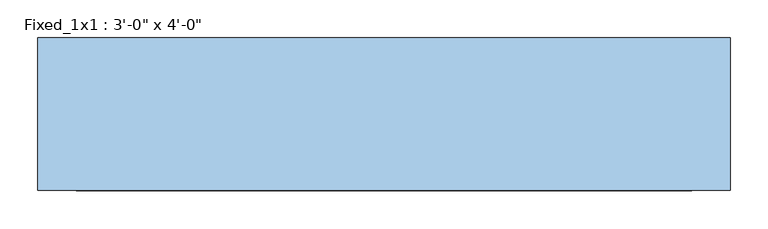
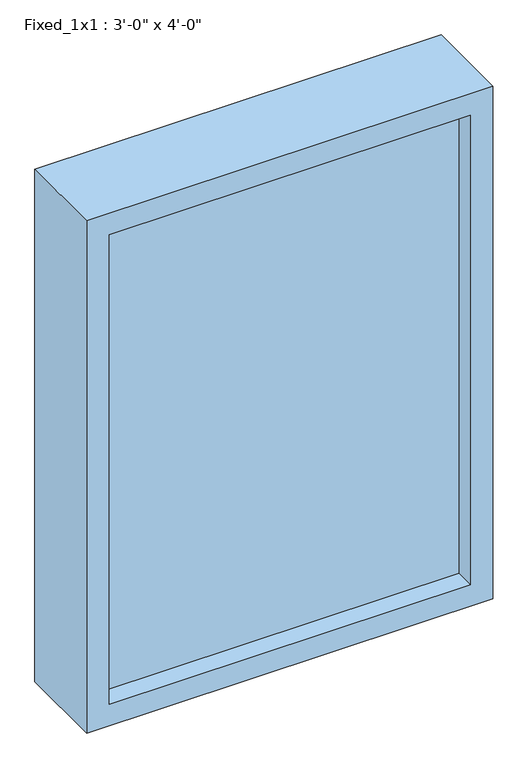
"""IFC4 building model written with IfcOpenShell, lengths in millimetres: window geometry."""

from ifc_helpers import new_model, si_unit, frame, origin, place, context, project, spatial, polyline, outline, extrude, source, transform, mapped, element, save


def window_3f51f6f0(model_context):
    return source(origin(), model_context, "Body", "SweptSolid", [
        extrude(outline(polyline([(-406.4, -82.9137746), (-406.4, -57.5137746), (406.4, -57.5137746), (406.4, -82.9137746), (-406.4, -82.9137746)])), frame((0.0, 0.0, 1066.8), z_axis=(0.0, 0.0, 1.0), x_axis=(1.0, 0.0, 0.0)), (0.0, 0.0, 1.0), 1117.6),
        extrude(outline(polyline([(2235.2, -457.2), (1016.0, -457.2), (1016.0, 457.2), (2235.2, 457.2), (2235.2, -457.2)]), holes=[polyline([(2184.4, -406.4), (2184.4, 406.4), (1066.8, 406.4), (1066.8, -406.4), (2184.4, -406.4)])]), frame((0.0, -127.3637746, 0.0), z_axis=(0.0, 1.0, 0.0), x_axis=(0.0, 0.0, 1.0)), (0.0, 0.0, 1.0), 201.6125),
    ])


if __name__ == "__main__":
    model = new_model("IFC4")
    model_context = context("Model", 3, world=origin())
    ifc_project = project(units=[si_unit("LENGTHUNIT", "METRE", prefix="MILLI")], contexts=[model_context])
    site = spatial("IfcSite", under=ifc_project)
    building = spatial("IfcBuilding", under=site)
    placement = place(None, origin())
    window_shape = window_3f51f6f0(model_context)
    element("IfcWindow", 1, ObjectType="Fixed_1x1 : 3'-0\" x 4'-0\"", at=placement, inside=building, context=model_context, shape_type="MappedRepresentation", body=[
        mapped(window_shape, transform((0.0, 0.0, 0.0), x_axis=(1.0, 0.0, 0.0), y_axis=(0.0, 1.0, 0.0), z_axis=(0.0, 0.0, 1.0))),
    ])
    save(model, "model.ifc")
